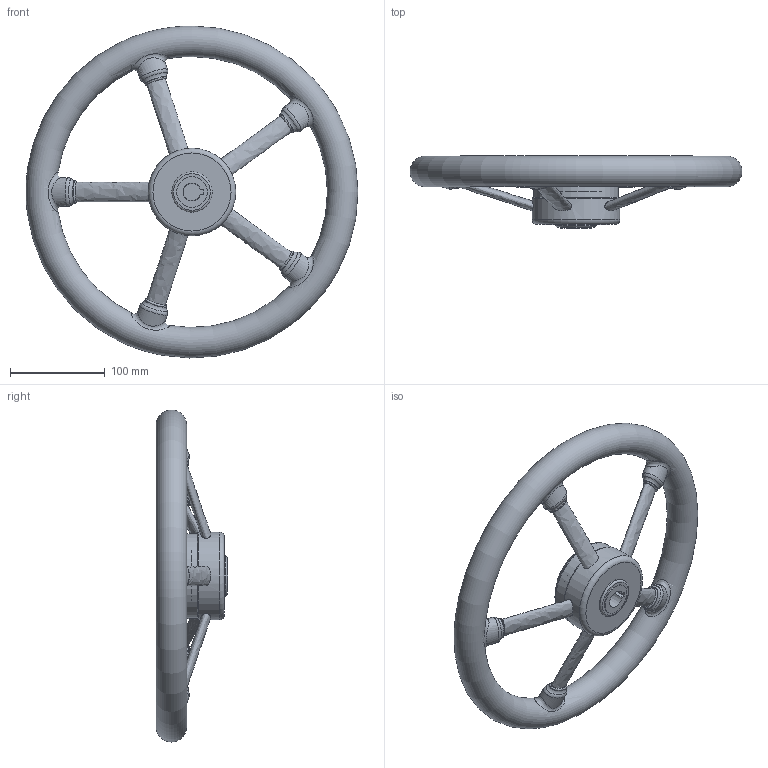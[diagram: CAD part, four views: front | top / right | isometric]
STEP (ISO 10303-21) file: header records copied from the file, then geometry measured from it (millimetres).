
FILE_DESCRIPTION(/* description */ (''),/* implementation_level */ '2;1');
FILE_NAME(/* name */ 'C:\Users\a.zappaterra\Desktop\Prodotti per Stand Virtuale\Volante\Complessivo volante.stp',/* time_stamp */ '2021-02-17T15:36:47+01:00',/* author */ ('a.zappaterra'),/* organization */ (''),/* preprocessor_version */ 'ST-DEVELOPER v18',/* originating_system */ 'Autodesk Inventor 2020',/* authorisation */ '');
FILE_SCHEMA (('AUTOMOTIVE_DESIGN { 1 0 10303 214 3 1 1 }'));
Products named in the file (3): Complessivo volante; Volante; placca cromata
Assembly tree (2 placements, depth 2):
  Complessivo volante
    Volante
    placca cromata
Bounding box: 349.93 x 75.8 x 349.98 mm (x, y, z)
Volume: 1156471.9 mm3; surface area: 174744 mm2
Topology: 2 solids, 2 shells, 128 faces, 376 edges, 269 vertices
Faces by surface type: bspline 45, plane 37, cylinder 21, torus 17, cone 8
Full cylindrical faces by diameter (mm): 32.5 x1, 36 x1, 42.5 x1, 87.3 x1, 87.7 x1, 89.7 x1, 92.3 x1
Entity records: 68797 total; most frequent: CARTESIAN_POINT 65456, ORIENTED_EDGE 724, DIRECTION 600, EDGE_CURVE 362, AXIS2_PLACEMENT_3D 253, VERTEX_POINT 248, CIRCLE 151, EDGE_LOOP 150
